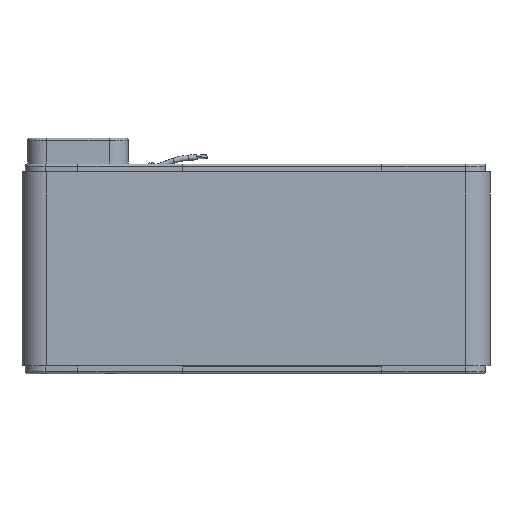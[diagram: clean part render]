
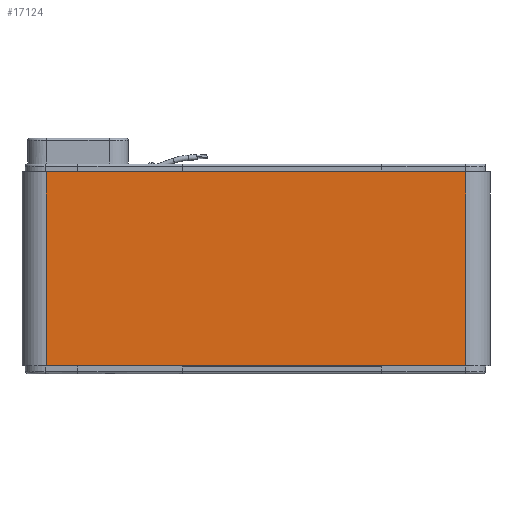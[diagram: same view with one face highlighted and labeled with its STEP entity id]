
A CAD part, left-side view. The second image highlights one B-rep face of the part: STEP entity #17124.
In plain terms, the highlighted planar face has unit normal (-1, 0, 0).
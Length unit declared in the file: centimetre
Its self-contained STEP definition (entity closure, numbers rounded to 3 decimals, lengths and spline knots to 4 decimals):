
#471=PLANE('',#18398);
#1347=FACE_OUTER_BOUND('',#2310,.T.);
#2310=EDGE_LOOP('',(#12215,#12216,#12217,#12218));
#4259=LINE('',#26469,#5600);
#4274=LINE('',#26502,#5615);
#4275=LINE('',#26505,#5616);
#4276=LINE('',#26506,#5617);
#5600=VECTOR('',#21072,1.);
#5615=VECTOR('',#21095,1.);
#5616=VECTOR('',#21098,1.);
#5617=VECTOR('',#21099,1.);
#7117=VERTEX_POINT('',#26463);
#7119=VERTEX_POINT('',#26467);
#7133=VERTEX_POINT('',#26500);
#7134=VERTEX_POINT('',#26504);
#9023=EDGE_CURVE('',#7117,#7119,#4259,.T.);
#9040=EDGE_CURVE('',#7119,#7133,#4274,.T.);
#9041=EDGE_CURVE('',#7133,#7134,#4275,.T.);
#9042=EDGE_CURVE('',#7117,#7134,#4276,.T.);
#12215=ORIENTED_EDGE('',*,*,#9023,.T.);
#12216=ORIENTED_EDGE('',*,*,#9040,.T.);
#12217=ORIENTED_EDGE('',*,*,#9041,.T.);
#12218=ORIENTED_EDGE('',*,*,#9042,.F.);
#17124=ADVANCED_FACE('',(#1347),#471,.T.);
#18398=AXIS2_PLACEMENT_3D('',#26503,#21096,#21097);
#21072=DIRECTION('',(0.,-1.,0.));
#21095=DIRECTION('',(0.,0.,1.));
#21096=DIRECTION('center_axis',(-1.,0.,0.));
#21097=DIRECTION('ref_axis',(0.,0.,
1.));
#21098=DIRECTION('',(0.,1.,0.));
#21099=DIRECTION('',(0.,0.,1.));
#26463=CARTESIAN_POINT('',(-2.33,13.,-9.25));
#26467=CARTESIAN_POINT('',(-2.33,-27.,-9.25));
#26469=CARTESIAN_POINT('',(-2.33,13.,-9.25));
#26500=CARTESIAN_POINT('',(-2.33,-27.,9.25));
#26502=CARTESIAN_POINT('',(-2.33,-27.,0.));
#26503=CARTESIAN_POINT('Origin',(-2.33,13.,0.));
#26504=CARTESIAN_POINT('',(-2.33,13.,9.25));
#26505=CARTESIAN_POINT('',(-2.33,13.,9.25));
#26506=CARTESIAN_POINT('',(-2.33,13.,0.));
